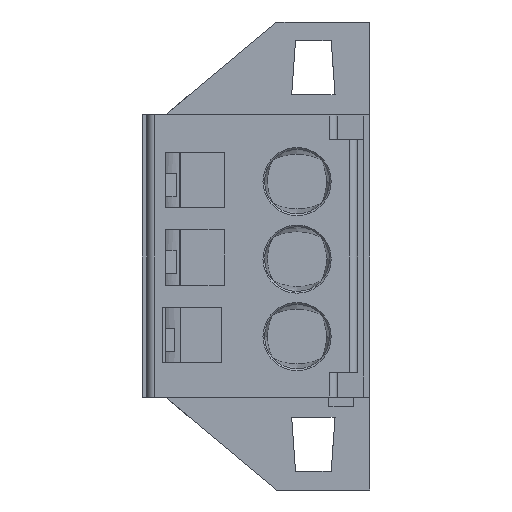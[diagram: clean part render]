
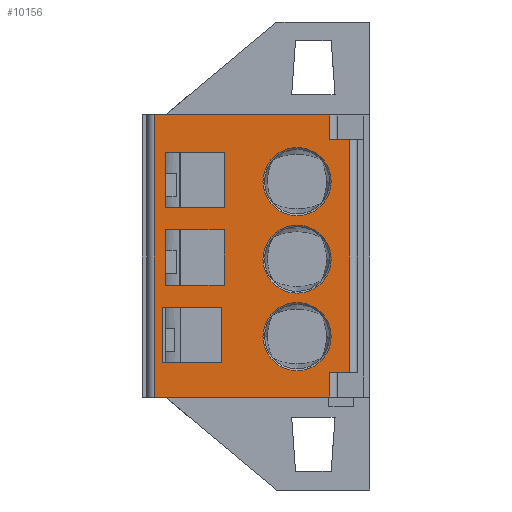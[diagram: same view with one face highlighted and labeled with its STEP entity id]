
A CAD part, front view. The second image highlights one B-rep face of the part: STEP entity #10156.
In plain terms, the highlighted planar face has unit normal (0, -1, 0).
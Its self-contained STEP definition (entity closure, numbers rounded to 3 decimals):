
#2437=DIRECTION('',(0.,0.,-1.));
#2438=VECTOR('',#2437,18.2);
#2439=CARTESIAN_POINT('',(0.8,0.,-6.));
#2440=LINE('',#2439,#2438);
#2445=DIRECTION('',(-1.,0.,0.));
#2446=VECTOR('',#2445,1.3);
#2447=CARTESIAN_POINT('',(13.4,0.,-22.6));
#2448=LINE('',#2447,#2446);
#2449=DIRECTION('',(-1.,0.,0.));
#2450=VECTOR('',#2449,11.3);
#2451=CARTESIAN_POINT('',(12.1,0.,-24.2));
#2452=LINE('',#2451,#2450);
#2453=DIRECTION('',(1.,0.,0.));
#2454=VECTOR('',#2453,11.3);
#2455=CARTESIAN_POINT('',(0.8,0.,-6.));
#2456=LINE('',#2455,#2454);
#2457=CARTESIAN_POINT('',(10.,0.,-20.3));
#2458=DIRECTION('',(0.,-1.,0.));
#2459=DIRECTION('',(1.,0.,0.));
#2460=AXIS2_PLACEMENT_3D('',#2457,#2458,#2459);
#2462=CARTESIAN_POINT('',(10.,0.,-20.3));
#2463=DIRECTION('',(0.,-1.,0.));
#2464=DIRECTION('',(-1.,0.,0.));
#2465=AXIS2_PLACEMENT_3D('',#2462,#2463,#2464);
#2467=DIRECTION('',(1.,0.,0.));
#2468=VECTOR('',#2467,3.8);
#2469=CARTESIAN_POINT('',(1.3,0.,-22.));
#2470=LINE('',#2469,#2468);
#2471=DIRECTION('',(0.,0.,-1.));
#2472=VECTOR('',#2471,3.6);
#2473=CARTESIAN_POINT('',(1.3,0.,-18.4));
#2474=LINE('',#2473,#2472);
#2475=CARTESIAN_POINT('',(10.,0.,-15.3));
#2476=DIRECTION('',(0.,-1.,0.));
#2477=DIRECTION('',(1.,0.,0.));
#2478=AXIS2_PLACEMENT_3D('',#2475,#2476,#2477);
#2480=CARTESIAN_POINT('',(10.,0.,-15.3));
#2481=DIRECTION('',(0.,-1.,0.));
#2482=DIRECTION('',(-1.,0.,0.));
#2483=AXIS2_PLACEMENT_3D('',#2480,#2481,#2482);
#2485=DIRECTION('',(1.,0.,0.));
#2486=VECTOR('',#2485,3.8);
#2487=CARTESIAN_POINT('',(1.5,0.,-17.));
#2488=LINE('',#2487,#2486);
#2489=DIRECTION('',(0.,0.,-1.));
#2490=VECTOR('',#2489,3.6);
#2491=CARTESIAN_POINT('',(1.5,0.,-13.4));
#2492=LINE('',#2491,#2490);
#2493=CARTESIAN_POINT('',(10.,0.,-10.3));
#2494=DIRECTION('',(0.,-1.,0.));
#2495=DIRECTION('',(1.,0.,0.));
#2496=AXIS2_PLACEMENT_3D('',#2493,#2494,#2495);
#2498=CARTESIAN_POINT('',(10.,0.,-10.3));
#2499=DIRECTION('',(0.,-1.,0.));
#2500=DIRECTION('',(-1.,0.,0.));
#2501=AXIS2_PLACEMENT_3D('',#2498,#2499,#2500);
#2503=DIRECTION('',(1.,0.,0.));
#2504=VECTOR('',#2503,3.8);
#2505=CARTESIAN_POINT('',(1.5,0.,-12.));
#2506=LINE('',#2505,#2504);
#2507=DIRECTION('',(0.,0.,-1.));
#2508=VECTOR('',#2507,3.6);
#2509=CARTESIAN_POINT('',(1.5,0.,-8.4));
#2510=LINE('',#2509,#2508);
#3227=DIRECTION('',(0.,0.,1.));
#3228=VECTOR('',#3227,1.6);
#3229=CARTESIAN_POINT('',(12.1,0.,-7.6));
#3230=LINE('',#3229,#3228);
#3244=DIRECTION('',(-1.,0.,0.));
#3245=VECTOR('',#3244,1.3);
#3246=CARTESIAN_POINT('',(13.4,0.,-7.6));
#3247=LINE('',#3246,#3245);
#3269=DIRECTION('',(0.,0.,1.));
#3270=VECTOR('',#3269,15.);
#3271=CARTESIAN_POINT('',(13.4,0.,-22.6));
#3272=LINE('',#3271,#3270);
#3456=DIRECTION('',(1.,0.,0.));
#3457=VECTOR('',#3456,3.8);
#3458=CARTESIAN_POINT('',(1.3,0.,-18.4));
#3459=LINE('',#3458,#3457);
#3508=DIRECTION('',(0.,0.,-1.));
#3509=VECTOR('',#3508,3.6);
#3510=CARTESIAN_POINT('',(5.1,0.,-18.4));
#3511=LINE('',#3510,#3509);
#3757=DIRECTION('',(1.,0.,0.));
#3758=VECTOR('',#3757,3.8);
#3759=CARTESIAN_POINT('',(1.5,0.,-13.4));
#3760=LINE('',#3759,#3758);
#3769=DIRECTION('',(0.,0.,-1.));
#3770=VECTOR('',#3769,3.6);
#3771=CARTESIAN_POINT('',(5.3,0.,-13.4));
#3772=LINE('',#3771,#3770);
#4011=DIRECTION('',(1.,0.,0.));
#4012=VECTOR('',#4011,3.8);
#4013=CARTESIAN_POINT('',(1.5,0.,-8.4));
#4014=LINE('',#4013,#4012);
#4023=DIRECTION('',(0.,0.,-1.));
#4024=VECTOR('',#4023,3.6);
#4025=CARTESIAN_POINT('',(5.3,0.,-8.4));
#4026=LINE('',#4025,#4024);
#4113=DIRECTION('',(0.,0.,1.));
#4114=VECTOR('',#4113,1.6);
#4115=CARTESIAN_POINT('',(12.1,0.,-24.2));
#4116=LINE('',#4115,#4114);
#5341=CARTESIAN_POINT('',(5.3,0.,-8.4));
#5342=VERTEX_POINT('',#5341);
#5343=CARTESIAN_POINT('',(5.3,0.,-12.));
#5344=VERTEX_POINT('',#5343);
#5349=CARTESIAN_POINT('',(1.5,0.,-8.4));
#5350=VERTEX_POINT('',#5349);
#5731=CARTESIAN_POINT('',(0.8,0.,-6.));
#5732=CARTESIAN_POINT('',(0.8,0.,-24.2));
#5733=VERTEX_POINT('',#5731);
#5734=VERTEX_POINT('',#5732);
#5735=CARTESIAN_POINT('',(13.4,0.,-22.6));
#5736=CARTESIAN_POINT('',(12.1,0.,-22.6));
#5737=VERTEX_POINT('',#5735);
#5738=VERTEX_POINT('',#5736);
#5739=CARTESIAN_POINT('',(12.1,0.,-24.2));
#5740=VERTEX_POINT('',#5739);
#5741=CARTESIAN_POINT('',(12.1,0.,-6.));
#5742=VERTEX_POINT('',#5741);
#5743=CARTESIAN_POINT('',(12.1,0.,-7.6));
#5744=VERTEX_POINT('',#5743);
#5745=CARTESIAN_POINT('',(13.4,0.,-7.6));
#5746=VERTEX_POINT('',#5745);
#5747=CARTESIAN_POINT('',(12.2,0.,-20.3));
#5748=CARTESIAN_POINT('',(7.8,0.,-20.3));
#5749=VERTEX_POINT('',#5747);
#5750=VERTEX_POINT('',#5748);
#5751=CARTESIAN_POINT('',(1.3,0.,-22.));
#5752=CARTESIAN_POINT('',(5.1,0.,-22.));
#5753=VERTEX_POINT('',#5751);
#5754=VERTEX_POINT('',#5752);
#5755=CARTESIAN_POINT('',(5.1,0.,-18.4));
#5756=VERTEX_POINT('',#5755);
#5757=CARTESIAN_POINT('',(1.3,0.,-18.4));
#5758=VERTEX_POINT('',#5757);
#5759=CARTESIAN_POINT('',(12.2,0.,-15.3));
#5760=CARTESIAN_POINT('',(7.8,0.,-15.3));
#5761=VERTEX_POINT('',#5759);
#5762=VERTEX_POINT('',#5760);
#5763=CARTESIAN_POINT('',(1.5,0.,-17.));
#5764=CARTESIAN_POINT('',(5.3,0.,-17.));
#5765=VERTEX_POINT('',#5763);
#5766=VERTEX_POINT('',#5764);
#5767=CARTESIAN_POINT('',(5.3,0.,-13.4));
#5768=VERTEX_POINT('',#5767);
#5769=CARTESIAN_POINT('',(1.5,0.,-13.4));
#5770=VERTEX_POINT('',#5769);
#5771=CARTESIAN_POINT('',(12.2,0.,-10.3));
#5772=CARTESIAN_POINT('',(7.8,0.,-10.3));
#5773=VERTEX_POINT('',#5771);
#5774=VERTEX_POINT('',#5772);
#5775=CARTESIAN_POINT('',(1.5,0.,-12.));
#5776=VERTEX_POINT('',#5775);
#10087=CARTESIAN_POINT('',(0.5,0.,-7.6));
#10088=DIRECTION('',(0.,-1.,0.));
#10089=DIRECTION('',(1.,0.,0.));
#10090=AXIS2_PLACEMENT_3D('',#10087,#10088,#10089);
#10091=PLANE('',#10090);
#10093=ORIENTED_EDGE('',*,*,#10092,.T.);
#10095=ORIENTED_EDGE('',*,*,#10094,.F.);
#10096=ORIENTED_EDGE('',*,*,#10028,.T.);
#10097=ORIENTED_EDGE('',*,*,#10077,.F.);
#10099=ORIENTED_EDGE('',*,*,#10098,.T.);
#10101=ORIENTED_EDGE('',*,*,#10100,.F.);
#10103=ORIENTED_EDGE('',*,*,#10102,.F.);
#10105=ORIENTED_EDGE('',*,*,#10104,.F.);
#10106=EDGE_LOOP('',(#10093,#10095,#10096,#10097,#10099,#10101,#10103,#10105));
#10107=FACE_OUTER_BOUND('',#10106,.F.);
#10109=ORIENTED_EDGE('',*,*,#10108,.T.);
#10111=ORIENTED_EDGE('',*,*,#10110,.T.);
#10112=EDGE_LOOP('',(#10109,#10111));
#10113=FACE_BOUND('',#10112,.F.);
#10115=ORIENTED_EDGE('',*,*,#10114,.T.);
#10117=ORIENTED_EDGE('',*,*,#10116,.F.);
#10119=ORIENTED_EDGE('',*,*,#10118,.F.);
#10121=ORIENTED_EDGE('',*,*,#10120,.T.);
#10122=EDGE_LOOP('',(#10115,#10117,#10119,#10121));
#10123=FACE_BOUND('',#10122,.F.);
#10125=ORIENTED_EDGE('',*,*,#10124,.T.);
#10127=ORIENTED_EDGE('',*,*,#10126,.T.);
#10128=EDGE_LOOP('',(#10125,#10127));
#10129=FACE_BOUND('',#10128,.F.);
#10131=ORIENTED_EDGE('',*,*,#10130,.T.);
#10133=ORIENTED_EDGE('',*,*,#10132,.F.);
#10135=ORIENTED_EDGE('',*,*,#10134,.F.);
#10137=ORIENTED_EDGE('',*,*,#10136,.T.);
#10138=EDGE_LOOP('',(#10131,#10133,#10135,#10137));
#10139=FACE_BOUND('',#10138,.F.);
#10141=ORIENTED_EDGE('',*,*,#10140,.T.);
#10143=ORIENTED_EDGE('',*,*,#10142,.T.);
#10144=EDGE_LOOP('',(#10141,#10143));
#10145=FACE_BOUND('',#10144,.F.);
#10147=ORIENTED_EDGE('',*,*,#10146,.T.);
#10149=ORIENTED_EDGE('',*,*,#10148,.F.);
#10151=ORIENTED_EDGE('',*,*,#10150,.F.);
#10153=ORIENTED_EDGE('',*,*,#10152,.T.);
#10154=EDGE_LOOP('',(#10147,#10149,#10151,#10153));
#10155=FACE_BOUND('',#10154,.F.);
#10156=ADVANCED_FACE('',(#10107,#10113,#10123,#10129,#10139,#10145,#10155),
#10091,.T.);
#2461=CIRCLE('',#2460,2.2);
#2466=CIRCLE('',#2465,2.2);
#2479=CIRCLE('',#2478,2.2);
#2484=CIRCLE('',#2483,2.2);
#2497=CIRCLE('',#2496,2.2);
#2502=CIRCLE('',#2501,2.2);
#10028=EDGE_CURVE('',#5740,#5734,#2452,.T.);
#10077=EDGE_CURVE('',#5733,#5734,#2440,.T.);
#10092=EDGE_CURVE('',#5737,#5738,#2448,.T.);
#10094=EDGE_CURVE('',#5740,#5738,#4116,.T.);
#10098=EDGE_CURVE('',#5733,#5742,#2456,.T.);
#10100=EDGE_CURVE('',#5744,#5742,#3230,.T.);
#10102=EDGE_CURVE('',#5746,#5744,#3247,.T.);
#10104=EDGE_CURVE('',#5737,#5746,#3272,.T.);
#10108=EDGE_CURVE('',#5749,#5750,#2461,.T.);
#10110=EDGE_CURVE('',#5750,#5749,#2466,.T.);
#10114=EDGE_CURVE('',#5753,#5754,#2470,.T.);
#10116=EDGE_CURVE('',#5756,#5754,#3511,.T.);
#10118=EDGE_CURVE('',#5758,#5756,#3459,.T.);
#10120=EDGE_CURVE('',#5758,#5753,#2474,.T.);
#10124=EDGE_CURVE('',#5761,#5762,#2479,.T.);
#10126=EDGE_CURVE('',#5762,#5761,#2484,.T.);
#10130=EDGE_CURVE('',#5765,#5766,#2488,.T.);
#10132=EDGE_CURVE('',#5768,#5766,#3772,.T.);
#10134=EDGE_CURVE('',#5770,#5768,#3760,.T.);
#10136=EDGE_CURVE('',#5770,#5765,#2492,.T.);
#10140=EDGE_CURVE('',#5773,#5774,#2497,.T.);
#10142=EDGE_CURVE('',#5774,#5773,#2502,.T.);
#10146=EDGE_CURVE('',#5776,#5344,#2506,.T.);
#10148=EDGE_CURVE('',#5342,#5344,#4026,.T.);
#10150=EDGE_CURVE('',#5350,#5342,#4014,.T.);
#10152=EDGE_CURVE('',#5350,#5776,#2510,.T.);
